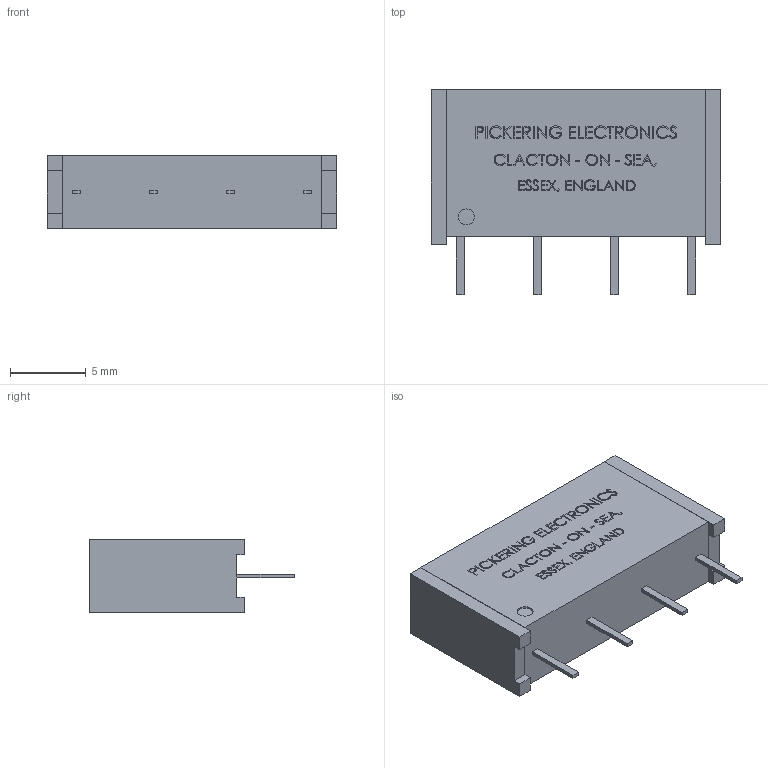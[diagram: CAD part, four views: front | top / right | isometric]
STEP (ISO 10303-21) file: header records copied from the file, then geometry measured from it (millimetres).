
FILE_DESCRIPTION (( 'STEP AP203' ), '1' );
FILE_NAME ('107-1-B-x-xx.STEP', '2010-06-30T13:06:52', ( ' ' ), ( '' ), 'SwSTEP 2.0', 'SolidWorks 2009', '' );
FILE_SCHEMA (( 'CONFIG_CONTROL_DESIGN' ));
Products named in the file (1): 107-1-B-x-xx
Bounding box: 19.1 x 13.5 x 4.8 mm (x, y, z)
Volume: 891.3 mm3; surface area: 892.8 mm2
Topology: 7 solids, 7 shells, 992 faces, 2619 edges, 1746 vertices
Faces by surface type: plane 720, bspline 270, cylinder 2
Entity records: 45420 total; most frequent: CARTESIAN_POINT 22596, ORIENTED_EDGE 5238, DIRECTION 3529, EDGE_CURVE 2619, VECTOR 2075, LINE 2075, VERTEX_POINT 1746, EDGE_LOOP 1097
